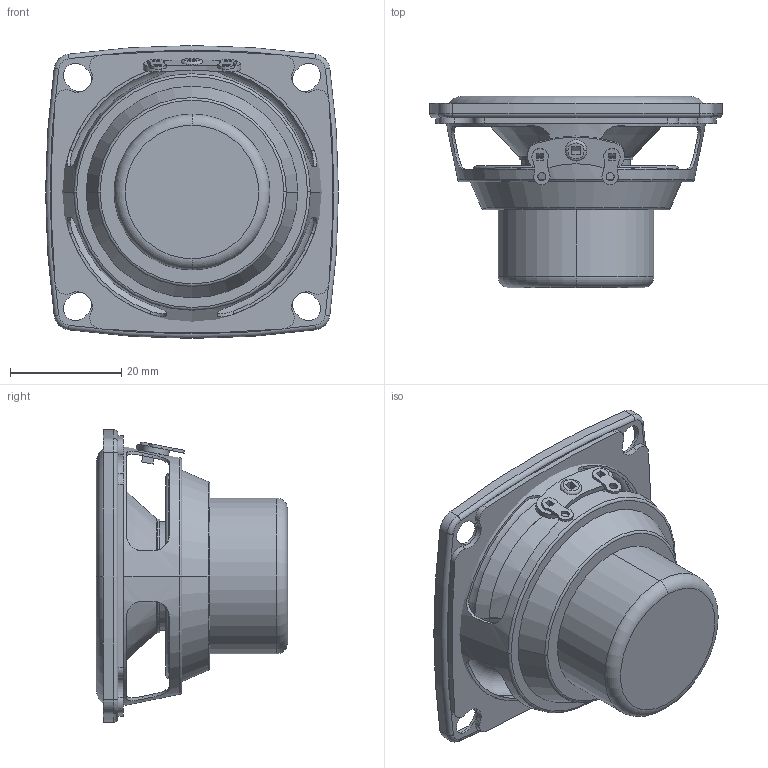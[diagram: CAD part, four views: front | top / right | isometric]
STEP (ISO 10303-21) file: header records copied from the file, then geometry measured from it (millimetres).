
FILE_DESCRIPTION((''),'2;1');
FILE_NAME('ST-8A05D-1_ASM','2023-09-23T13:28:34',('54257'),(''),'CREO PARAMETRIC BY PTC INC, 2020053','CREO PARAMETRIC BY PTC INC, 2020053','');
FILE_SCHEMA(('CONFIG_CONTROL_DESIGN','SHAPE_APPEARANCE_LAYERS_GROUPS'));
Length unit declared in the file: millimetre
Products named in the file (12): ST-FY-5301_A_1; HP-1_A_1; HM_A_1; HP_A_1; HM-1_A_1; HV_A_1; HA_A_1; HT_A_1; HC-2; HD_A_1; HG_A_1; ST-8A05D-1_ASM
Assembly tree (11 placements, depth 2):
  ST-8A05D-1_ASM
    ST-FY-5301_A_1
    HP-1_A_1
    HM_A_1
    HP_A_1
    HM-1_A_1
    HV_A_1
    HA_A_1
    HT_A_1
    HC-2
    HD_A_1
    HG_A_1
Bounding box: 52.6 x 34.35 x 52.6 mm (x, y, z)
Volume: 12976.5 mm3; surface area: 27653.1 mm2
Topology: 13 solids, 13 shells, 299 faces, 694 edges, 428 vertices
Faces by surface type: cylinder 108, plane 83, torus 56, cone 48, sphere 4
Entity records: 13245 total; most frequent: CARTESIAN_POINT 1844, DIRECTION 1664, ORIENTED_EDGE 1380, PRESENTATION_STYLE_ASSIGNMENT 958, STYLED_ITEM 958, AXIS2_PLACEMENT_3D 708, EDGE_CURVE 690, CURVE_STYLE 666
